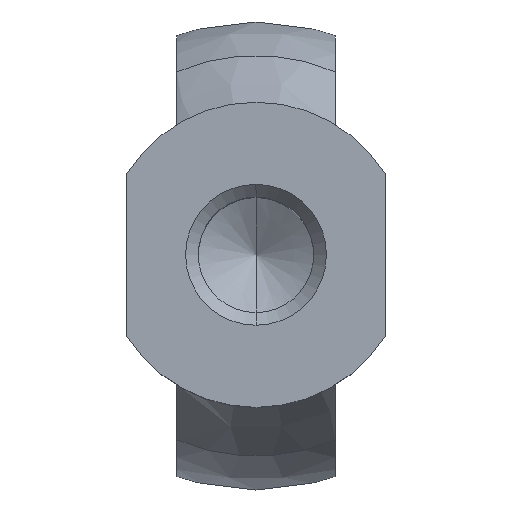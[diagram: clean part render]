
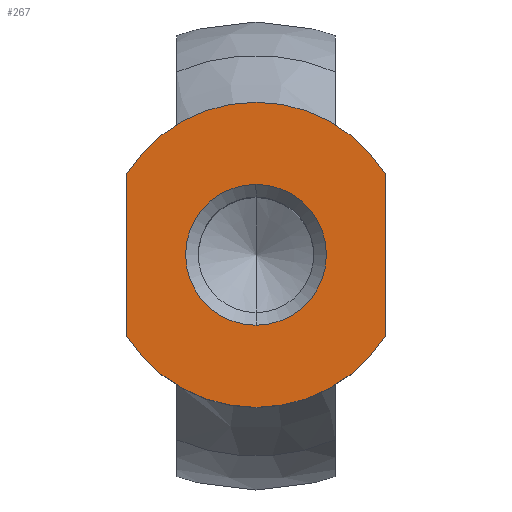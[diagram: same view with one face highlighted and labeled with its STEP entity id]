
A CAD part, top view. The second image highlights one B-rep face of the part: STEP entity #267.
In plain terms, the highlighted planar face has unit normal (0, 0, 1).
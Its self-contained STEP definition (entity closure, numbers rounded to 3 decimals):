
#169 = VERTEX_POINT( '', #464 );
#213 = VERTEX_POINT( '', #513 );
#241 = VERTEX_POINT( '', #548 );
#249 = EDGE_CURVE( '', #419, #241, #557, .T. );
#267 = ADVANCED_FACE( '', ( #579, #580 ), #581, .T. );
#297 = EDGE_CURVE( '', #341, #321, #612, .T. );
#317 = EDGE_CURVE( '', #241, #419, #632, .T. );
#321 = VERTEX_POINT( '', #636 );
#325 = EDGE_CURVE( '', #213, #321, #640, .T. );
#341 = VERTEX_POINT( '', #659 );
#399 = EDGE_CURVE( '', #213, #169, #724, .T. );
#417 = EDGE_CURVE( '', #341, #169, #743, .T. );
#419 = VERTEX_POINT( '', #745 );
#464 = CARTESIAN_POINT( '', ( -5.5, -3.464, 0. ) );
#513 = CARTESIAN_POINT( '', ( 5.5, -3.464, 0. ) );
#548 = CARTESIAN_POINT( '', ( 0., 3., 0. ) );
#557 = CIRCLE( '', #915, 3. );
#579 = FACE_OUTER_BOUND( '', #940, .T. );
#580 = FACE_BOUND( '', #941, .T. );
#581 = PLANE( '', #942 );
#612 = CIRCLE( '', #988, 6.5 );
#632 = CIRCLE( '', #1015, 3. );
#636 = CARTESIAN_POINT( '', ( 5.5, 3.464, 0. ) );
#640 = LINE( '', #1027, #1028 );
#659 = CARTESIAN_POINT( '', ( -5.5, 3.464, 0. ) );
#724 = CIRCLE( '', #1151, 6.5 );
#743 = LINE( '', #1179, #1180 );
#745 = CARTESIAN_POINT( '', ( 0., -3., 0. ) );
#915 = AXIS2_PLACEMENT_3D( '', #1361, #1362, #1363 );
#940 = EDGE_LOOP( '', ( #1400, #1401, #1402, #1403 ) );
#941 = EDGE_LOOP( '', ( #1404, #1405 ) );
#942 = AXIS2_PLACEMENT_3D( '', #1406, #1407, #1408 );
#988 = AXIS2_PLACEMENT_3D( '', #1434, #1435, #1436 );
#1015 = AXIS2_PLACEMENT_3D( '', #1445, #1446, #1447 );
#1027 = CARTESIAN_POINT( '', ( 5.5, 10., 0. ) );
#1028 = VECTOR( '', #1452, 1. );
#1151 = AXIS2_PLACEMENT_3D( '', #1554, #1555, #1556 );
#1179 = CARTESIAN_POINT( '', ( -5.5, 10., 0. ) );
#1180 = VECTOR( '', #1579, 1. );
#1361 = CARTESIAN_POINT( '', ( 0., 0., 0. ) );
#1362 = DIRECTION( '', ( 0., 0., -1. ) );
#1363 = DIRECTION( '', ( 0., 1., 0. ) );
#1400 = ORIENTED_EDGE( '', *, *, #417, .T. );
#1401 = ORIENTED_EDGE( '', *, *, #399, .F. );
#1402 = ORIENTED_EDGE( '', *, *, #325, .T. );
#1403 = ORIENTED_EDGE( '', *, *, #297, .F. );
#1404 = ORIENTED_EDGE( '', *, *, #317, .T. );
#1405 = ORIENTED_EDGE( '', *, *, #249, .T. );
#1406 = CARTESIAN_POINT( '', ( 3.25, 0., 0. ) );
#1407 = DIRECTION( '', ( 0., 0., 1. ) );
#1408 = DIRECTION( '', ( -1., 0., 0. ) );
#1434 = CARTESIAN_POINT( '', ( 0., 0., 0. ) );
#1435 = DIRECTION( '', ( 0., 0., -1. ) );
#1436 = DIRECTION( '', ( 1., 0., 0. ) );
#1445 = CARTESIAN_POINT( '', ( 0., 0., 0. ) );
#1446 = DIRECTION( '', ( 0., 0., -1. ) );
#1447 = DIRECTION( '', ( 0., 1., 0. ) );
#1452 = DIRECTION( '', ( 0., 1., 0. ) );
#1554 = CARTESIAN_POINT( '', ( 0., 0., 0. ) );
#1555 = DIRECTION( '', ( 0., 0., -1. ) );
#1556 = DIRECTION( '', ( 1., 0., 0. ) );
#1579 = DIRECTION( '', ( 0., -1., 0. ) );
